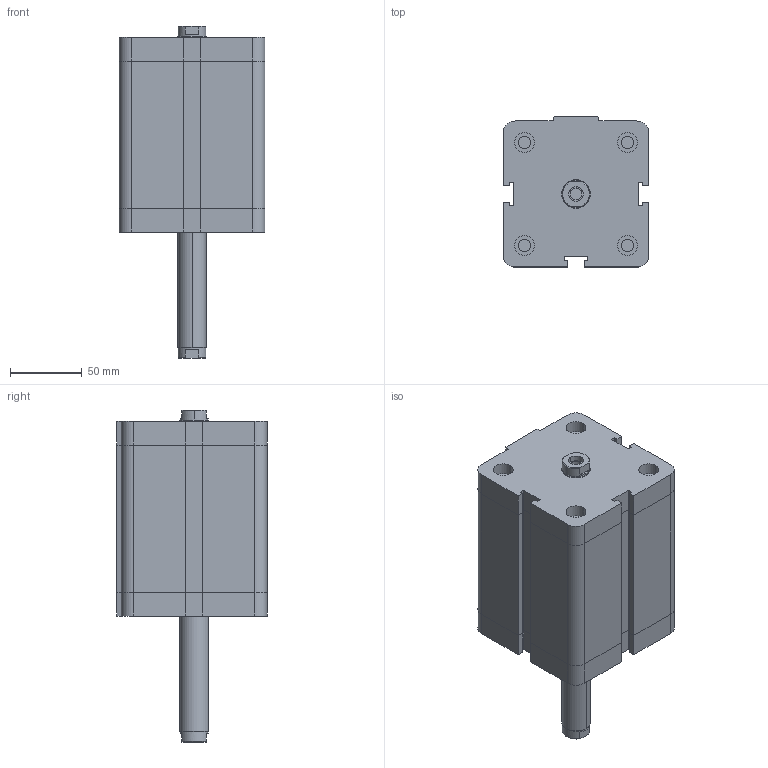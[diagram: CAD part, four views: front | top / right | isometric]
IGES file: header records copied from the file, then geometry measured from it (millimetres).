
Global section: file name: No Iges File Name specified; native system: Autodesk Inventor 2009; preprocessor: AutoDesk Inventor Iges Exporter R2009; author: maffial1; date: 20090420.200438; units: millimetre
Bounding box: 102 x 105 x 232 mm (x, y, z)
Volume: 1387122 mm3; surface area: 114440.2 mm2
Topology: 2 solids, 2 shells, 202 faces, 450 edges, 274 vertices
Faces by surface type: plane 114, bspline 42, revolution 20, cylinder 18, cone 8
